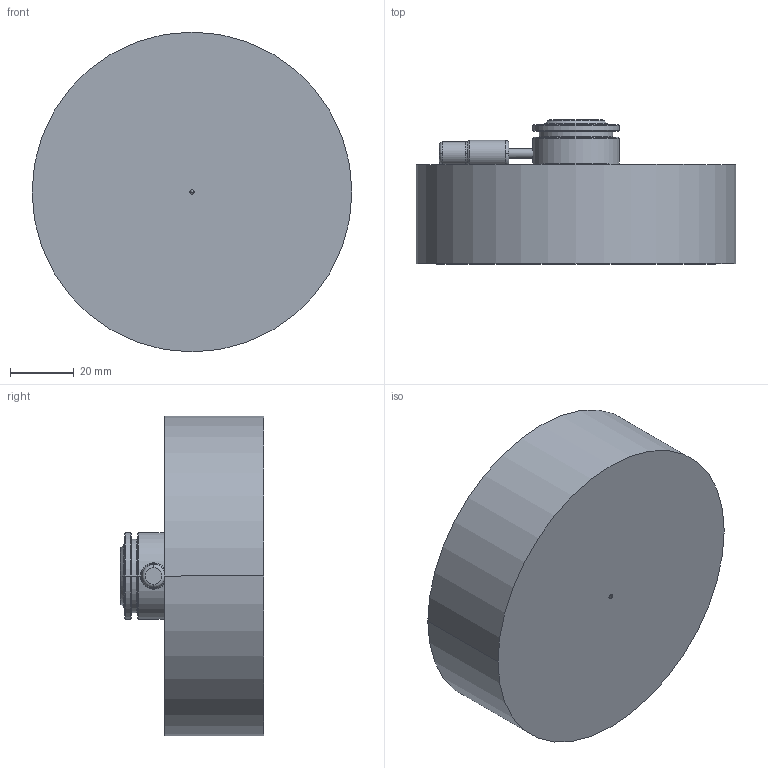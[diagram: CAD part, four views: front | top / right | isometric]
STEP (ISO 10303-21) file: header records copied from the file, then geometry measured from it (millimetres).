
FILE_DESCRIPTION((''),'2;1');
FILE_NAME('M27G(Ti)101.stp','2020-09-17T12:49:40',(''),(''),'AutoCAD STEP 2000i','AutoCAD 2000i',', , ');
FILE_SCHEMA(('CONFIG_CONTROL_DESIGN'));
Length unit declared in the file: millimetre
Products named in the file (3): DRAWING1; MOLD BODE FOR SPEDIAL N27; NOZZLE M101G-TI-27
Assembly tree (2 placements, depth 2):
  DRAWING1
    MOLD BODE FOR SPEDIAL N27
    NOZZLE M101G-TI-27
Bounding box: 100 x 45 x 100 mm (x, y, z)
Volume: 249730.8 mm3; surface area: 31372.3 mm2
Topology: 2 solids, 2 shells, 107 faces, 256 edges, 159 vertices
Faces by surface type: cone 38, cylinder 32, bspline 14, plane 13, torus 10
Entity records: 3808 total; most frequent: CARTESIAN_POINT 1116, DIRECTION 619, ORIENTED_EDGE 504, AXIS2_PLACEMENT_3D 274, EDGE_CURVE 252, CIRCLE 178, VERTEX_POINT 159, EDGE_LOOP 119
